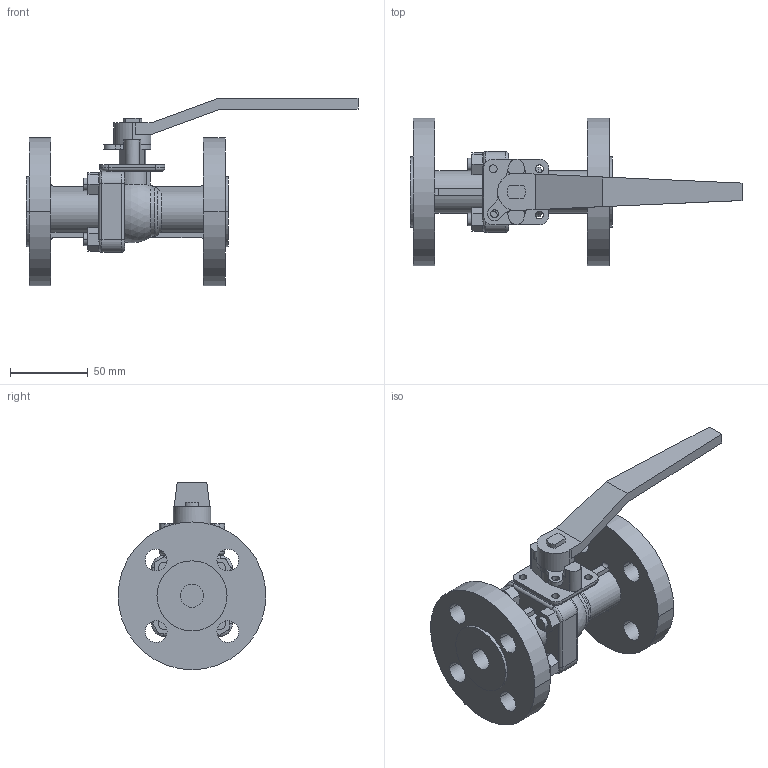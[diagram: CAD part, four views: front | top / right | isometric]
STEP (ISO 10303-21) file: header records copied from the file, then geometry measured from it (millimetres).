
FILE_DESCRIPTION( (''), '2;1');
FILE_NAME ('PC2091.16192.BLV-2SF EN PN16 15A_6675.stp','2026-05-28T09:10:51',(''),(''),'spGate 21.9.4 (****-****-****-****)','','');
FILE_SCHEMA (('AUTOMOTIVE_DESIGN'));
Length unit declared in the file: millimetre
Products named in the file (2): Assembly; BLV-2SFEN 15A
Assembly tree (1 placements, depth 2):
  Assembly
    BLV-2SFEN 15A
Bounding box: 213.3 x 95 x 120.5 mm (x, y, z)
Volume: 303125.4 mm3; surface area: 75774.9 mm2
Topology: 1 solids, 1 shells, 217 faces, 579 edges, 375 vertices
Faces by surface type: plane 100, cylinder 100, bspline 16, sphere 1
Entity records: 11983 total; most frequent: CARTESIAN_POINT 1927, ORIENTED_EDGE 1158, DIRECTION 1140, COLOUR_RGB 797, PRESENTATION_STYLE_ASSIGNMENT 797, STYLED_ITEM 797, EDGE_CURVE 579, DRAUGHTING_PRE_DEFINED_CURVE_FONT 579
